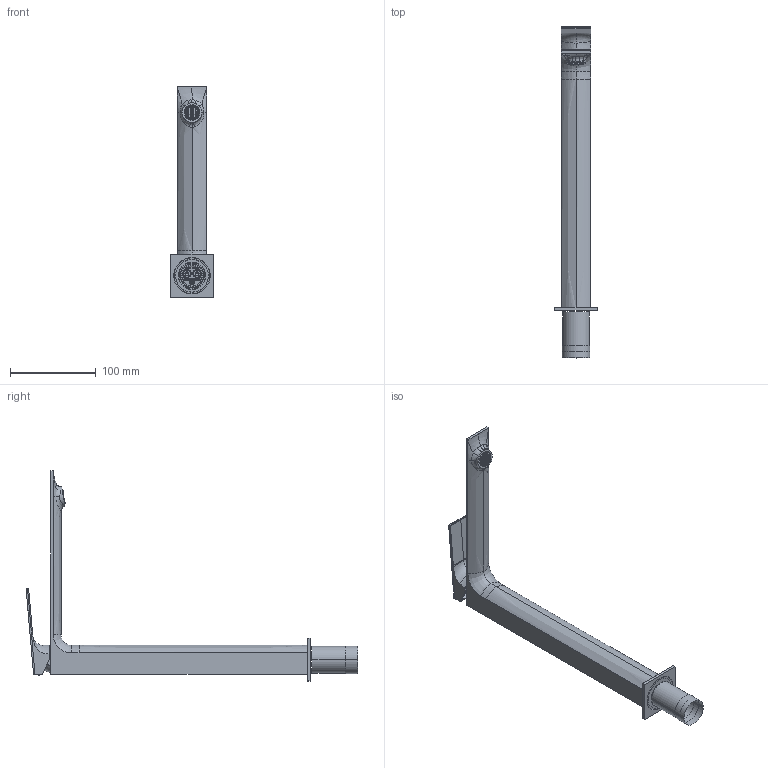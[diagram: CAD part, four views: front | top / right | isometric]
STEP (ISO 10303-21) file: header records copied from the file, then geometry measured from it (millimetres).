
FILE_DESCRIPTION((''),'2;1');
FILE_NAME('87065_ASM','2025-05-07T16:26:06',('volponeff'),(''),'CREO PARAMETRIC BY PTC INC, 2022014','CREO PARAMETRIC BY PTC INC, 2022014','');
FILE_SCHEMA(('CONFIG_CONTROL_DESIGN'));
Products named in the file (28): D473001866; D456C90086; A302D4005_H; A302D4005_D; A302D4005_F; A302D4005_G; A302D4005_E; A302D4005_C; A302D4005_I; A302D40062_ASM; D461000077; D500001403_MAR; A450000104; D456000221_AF0; D492520075_AF0; A488A80214_AF0; A488A80214_AF1; D482D40042_AF0; A503B60040_AF0; D518A80006_AF0; A496B60269_AF0; D511000162; A536A80109; A503B60031; A503B60067; A536A80199; A503B60097; 87065_ASM
Assembly tree (28 placements, depth 3):
  87065_ASM
    D473001866
    D456C90086
    A302D40062_ASM
      A302D4005_H
      A302D4005_D
      A302D4005_F
      A302D4005_G
      A302D4005_E
      A302D4005_C
      A302D4005_I
    D461000077
    D500001403_MAR
    A450000104
    D456000221_AF0
    D492520075_AF0
    A488A80214_AF0
    A488A80214_AF1
    D482D40042_AF0
    A503B60040_AF0
    D518A80006_AF0
    A496B60269_AF0
    D511000162
    A536A80109
    A503B60031
    A503B60067  x2
    A536A80199
    A503B60097
Bounding box: 50 x 386.19 x 245 mm (x, y, z)
Volume: 218487.8 mm3; surface area: 166862.1 mm2
Topology: 24 solids, 41 shells, 1979 faces, 4984 edges, 3056 vertices
Faces by surface type: plane 624, cylinder 613, torus 219, bspline 203, cone 111, sphere 107, extrusion 98, revolution 4
Entity records: 79488 total; most frequent: CARTESIAN_POINT 32727, ORIENTED_EDGE 9747, DIRECTION 9483, EDGE_CURVE 4903, AXIS2_PLACEMENT_3D 3654, VERTEX_POINT 3052, EDGE_LOOP 2198, VECTOR 2171
